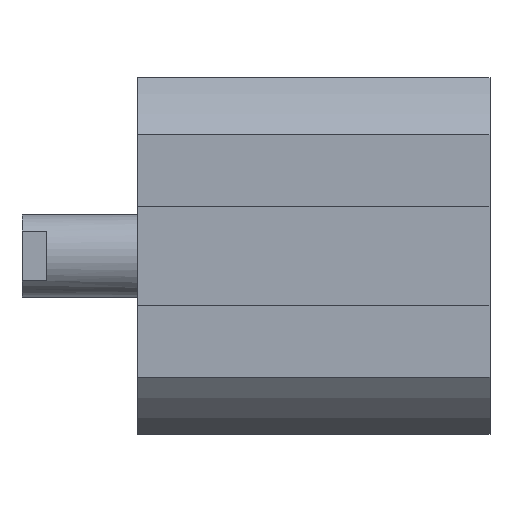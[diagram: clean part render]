
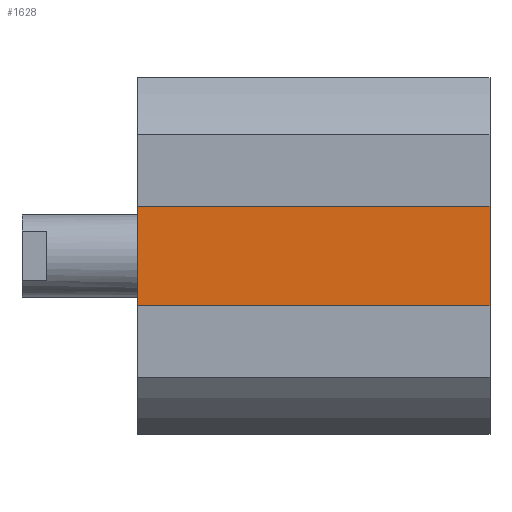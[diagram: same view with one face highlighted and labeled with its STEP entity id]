
A CAD part, left-side view. The second image highlights one B-rep face of the part: STEP entity #1628.
In plain terms, the highlighted planar face has unit normal (-1, 0, 0).
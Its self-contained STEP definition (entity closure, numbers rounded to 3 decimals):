
#48 = LINE ( 'NONE', #1639, #459 ) ;
#53 = VECTOR ( 'NONE', #2671, 1000. ) ;
#108 = FACE_OUTER_BOUND ( 'NONE', #2611, .T. ) ;
#217 = VECTOR ( 'NONE', #912, 1000. ) ;
#363 = VERTEX_POINT ( 'NONE', #1830 ) ;
#459 = VECTOR ( 'NONE', #564, 1000. ) ;
#564 = DIRECTION ( 'NONE',  ( 0., 0., 1. ) ) ;
#615 = DIRECTION ( 'NONE',  ( -1., 0., 0. ) ) ;
#620 = DIRECTION ( 'NONE',  ( 0., 0., 1. ) ) ;
#727 = CARTESIAN_POINT ( 'NONE',  ( -14., -42.5, 7.7 ) ) ;
#759 = CARTESIAN_POINT ( 'NONE',  ( -14., -42.5, -7.7 ) ) ;
#772 = CARTESIAN_POINT ( 'NONE',  ( -14., -42.5, 7.7 ) ) ;
#789 = LINE ( 'NONE', #772, #1290 ) ;
#851 = EDGE_CURVE ( 'NONE', #867, #1457, #48, .T. ) ;
#859 = ORIENTED_EDGE ( 'NONE', *, *, #1214, .F. ) ;
#861 = AXIS2_PLACEMENT_3D ( 'NONE', #1437, #615, #620 ) ;
#867 = VERTEX_POINT ( 'NONE', #759 ) ;
#887 = VERTEX_POINT ( 'NONE', #1191 ) ;
#912 = DIRECTION ( 'NONE',  ( 0., 0., 1. ) ) ;
#1034 = ORIENTED_EDGE ( 'NONE', *, *, #851, .T. ) ;
#1191 = CARTESIAN_POINT ( 'NONE',  ( -14., 0., 7.7 ) ) ;
#1214 = EDGE_CURVE ( 'NONE', #363, #887, #1341, .T. ) ;
#1225 = DIRECTION ( 'NONE',  ( 0., 1., 0. ) ) ;
#1246 = LINE ( 'NONE', #2687, #53 ) ;
#1290 = VECTOR ( 'NONE', #1225, 1000. ) ;
#1341 = LINE ( 'NONE', #1552, #217 ) ;
#1437 = CARTESIAN_POINT ( 'NONE',  ( -14., -42.5, 0. ) ) ;
#1457 = VERTEX_POINT ( 'NONE', #727 ) ;
#1515 = EDGE_CURVE ( 'NONE', #867, #363, #1246, .T. ) ;
#1552 = CARTESIAN_POINT ( 'NONE',  ( -14., 0., 0. ) ) ;
#1621 = PLANE ( 'NONE',  #861 ) ;
#1628 = ADVANCED_FACE ( 'NONE', ( #108 ), #1621, .T. ) ;
#1639 = CARTESIAN_POINT ( 'NONE',  ( -14., -42.5, 0. ) ) ;
#1830 = CARTESIAN_POINT ( 'NONE',  ( -14., 0., -7.7 ) ) ;
#2198 = ORIENTED_EDGE ( 'NONE', *, *, #1515, .F. ) ;
#2435 = EDGE_CURVE ( 'NONE', #1457, #887, #789, .T. ) ;
#2450 = ORIENTED_EDGE ( 'NONE', *, *, #2435, .T. ) ;
#2611 = EDGE_LOOP ( 'NONE', ( #859, #2198, #1034, #2450 ) ) ;
#2671 = DIRECTION ( 'NONE',  ( 0., 1., 0. ) ) ;
#2687 = CARTESIAN_POINT ( 'NONE',  ( -14., -42.5, -7.7 ) ) ;
